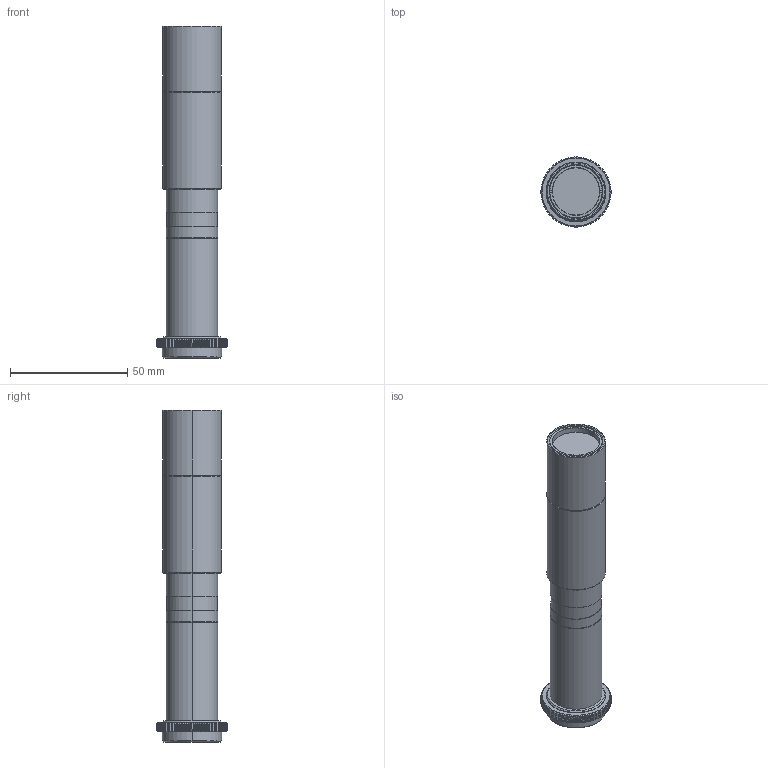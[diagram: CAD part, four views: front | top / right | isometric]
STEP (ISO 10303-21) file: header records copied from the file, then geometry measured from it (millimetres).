
FILE_DESCRIPTION (( 'STEP AP203' ), '1' );
FILE_NAME ('MML1-ST150_A03418A0100101A-001.STEP', '2013-12-13T00:22:47', ( 'SCHOTT' ), ( 'SCHOTT' ), 'SwSTEP 2.0', 'SolidWorks 2011', '' );
FILE_SCHEMA (( 'CONFIG_CONTROL_DESIGN' ));
Length unit declared in the file: millimetre
Products named in the file (1): MML1-ST150_A03418A0100101A-001
Bounding box: 30 x 30 x 141.78 mm (x, y, z)
Volume: 50803.5 mm3; surface area: 15010.3 mm2
Topology: 1 solids, 1 shells, 314 faces, 878 edges, 576 vertices
Faces by surface type: plane 260, cone 32, cylinder 22
Entity records: 10487 total; most frequent: CARTESIAN_POINT 3233, ORIENTED_EDGE 1756, DIRECTION 1104, EDGE_CURVE 878, VERTEX_POINT 576, B_SPLINE_CURVE_WITH_KNOTS 488, AXIS2_PLACEMENT_3D 399, EDGE_LOOP 324
